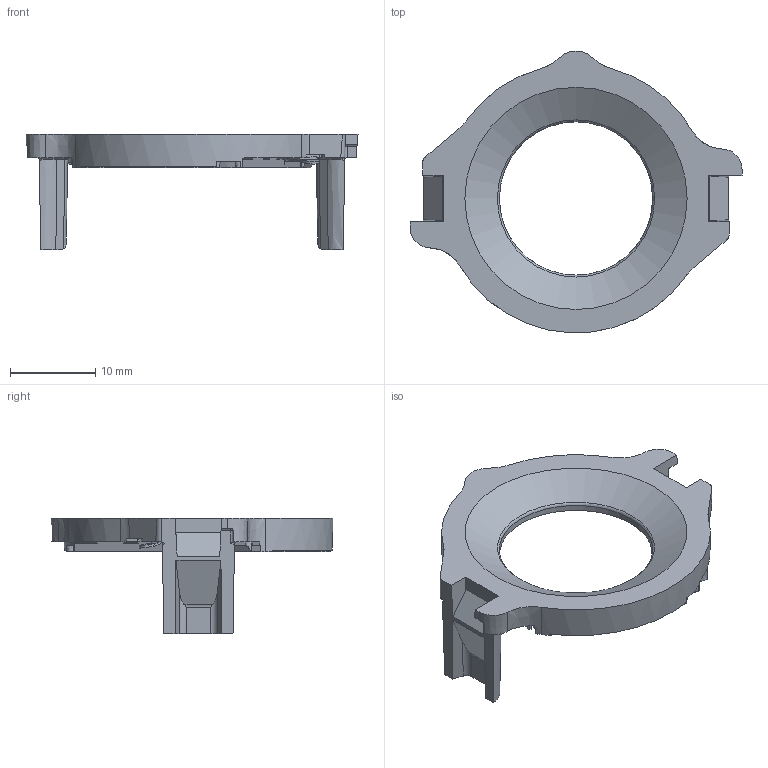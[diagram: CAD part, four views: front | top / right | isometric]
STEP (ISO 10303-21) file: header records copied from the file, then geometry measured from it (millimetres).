
FILE_DESCRIPTION(/* description */ ('Unknown'),/* implementation_level */ '2;1');
FILE_NAME(/* name */ '025-70D-02',/* time_stamp */ '2026-02-16T13:06:01+01:00',/* author */ ('Unknown'),/* organization */ ('Unknown'),/* preprocessor_version */ 'ST-DEVELOPER v16.7',/* originating_system */ 'Solid Edge',/* authorisation */ 'Unknown');
FILE_SCHEMA (('AUTOMOTIVE_DESIGN {1 0 10303 214 3 1 1}'));
Length unit declared in the file: millimetre
Products named in the file (1): 025-70D-02
Bounding box: 39 x 33.07 x 13.6 mm (x, y, z)
Volume: 1709.1 mm3; surface area: 2552.4 mm2
Topology: 1 solids, 1 shells, 504 faces, 1421 edges, 928 vertices
Faces by surface type: plane 231, cone 147, cylinder 73, bspline 34, torus 15, sphere 4
Full cylindrical faces by diameter (mm): 0.04 x2
Entity records: 20667 total; most frequent: CARTESIAN_POINT 4381, ORIENTED_EDGE 2800, DIRECTION 2530, EDGE_CURVE 1400, VERTEX_POINT 921, AXIS2_PLACEMENT_3D 921, LINE 688, VECTOR 688
